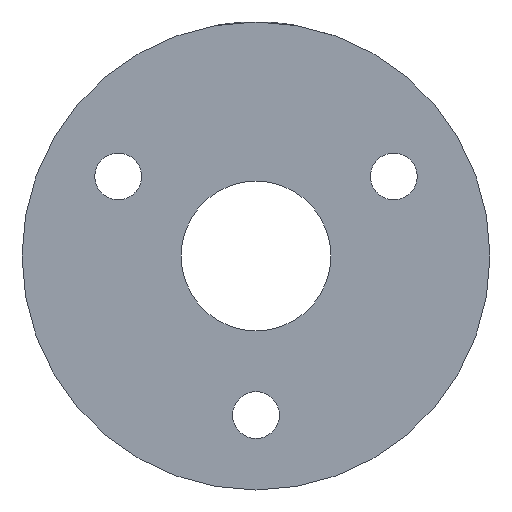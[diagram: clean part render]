
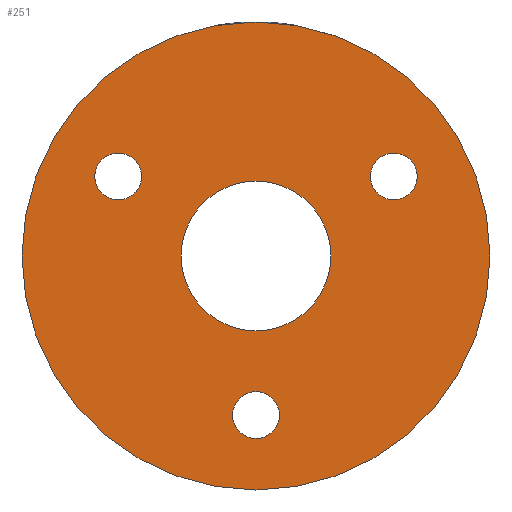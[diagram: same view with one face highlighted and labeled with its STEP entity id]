
A CAD part, front view. The second image highlights one B-rep face of the part: STEP entity #251.
In plain terms, the highlighted planar face has unit normal (0, -1, 0).
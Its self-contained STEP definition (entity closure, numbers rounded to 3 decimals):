
#48=ORIENTED_EDGE('',*,*,#68,.F.);
#49=ORIENTED_EDGE('',*,*,#73,.T.);
#50=ORIENTED_EDGE('',*,*,#72,.F.);
#51=ORIENTED_EDGE('',*,*,#69,.F.);
#52=ORIENTED_EDGE('',*,*,#67,.T.);
#67=EDGE_CURVE('',#82,#82,#96,.T.);
#68=EDGE_CURVE('',#83,#83,#97,.T.);
#69=EDGE_CURVE('',#84,#84,#98,.T.);
#72=EDGE_CURVE('',#87,#87,#100,.T.);
#73=EDGE_CURVE('',#88,#88,#101,.T.);
#82=VERTEX_POINT('',#363);
#83=VERTEX_POINT('',#366);
#84=VERTEX_POINT('',#369);
#87=VERTEX_POINT('',#387);
#88=VERTEX_POINT('',#390);
#96=CIRCLE('',#268,12.5);
#97=CIRCLE('',#270,1.25);
#98=CIRCLE('',#272,1.25);
#100=CIRCLE('',#276,1.25);
#101=CIRCLE('',#278,4.);
#120=EDGE_LOOP('',(#48));
#121=EDGE_LOOP('',(#49));
#122=EDGE_LOOP('',(#50));
#123=EDGE_LOOP('',(#51));
#124=EDGE_LOOP('',(#52));
#150=FACE_BOUND('',#120,.T.);
#151=FACE_BOUND('',#121,.T.);
#152=FACE_BOUND('',#122,.T.);
#153=FACE_BOUND('',#123,.T.);
#154=FACE_BOUND('',#124,.T.);
#164=PLANE('',#277);
#251=ADVANCED_FACE('',(#150,#151,#152,#153,#154),#164,.T.);
#268=AXIS2_PLACEMENT_3D('',#362,#299,#300);
#270=AXIS2_PLACEMENT_3D('',#365,#303,#304);
#272=AXIS2_PLACEMENT_3D('',#368,#307,#308);
#276=AXIS2_PLACEMENT_3D('',#386,#315,#316);
#277=AXIS2_PLACEMENT_3D('',#388,#317,#318);
#278=AXIS2_PLACEMENT_3D('',#389,#319,#320);
#299=DIRECTION('',(0.,-1.,0.));
#300=DIRECTION('',(1.,0.,0.));
#303=DIRECTION('',(0.,-1.,0.));
#304=DIRECTION('',(0.,0.,-1.));
#307=DIRECTION('',(0.,-1.,0.));
#308=DIRECTION('',(0.,0.,-1.));
#315=DIRECTION('',(0.,-1.,0.));
#316=DIRECTION('',(0.,0.,-1.));
#317=DIRECTION('',(0.,-1.,0.));
#318=DIRECTION('',(1.,0.,0.));
#319=DIRECTION('',(0.,1.,0.));
#320=DIRECTION('',(1.,0.,0.));
#362=CARTESIAN_POINT('',(455.,-83.988,35.));
#363=CARTESIAN_POINT('',(467.5,-83.988,35.));
#365=CARTESIAN_POINT('',(447.639,-83.988,39.25));
#366=CARTESIAN_POINT('',(447.639,-83.988,38.));
#368=CARTESIAN_POINT('',(462.361,-83.988,39.25));
#369=CARTESIAN_POINT('',(462.361,-83.988,38.));
#386=CARTESIAN_POINT('',(455.,-83.988,26.5));
#387=CARTESIAN_POINT('',(455.,-83.988,25.25));
#388=CARTESIAN_POINT('',(455.,-83.988,35.));
#389=CARTESIAN_POINT('',(455.,-83.988,35.));
#390=CARTESIAN_POINT('',(459.,-83.988,35.));
